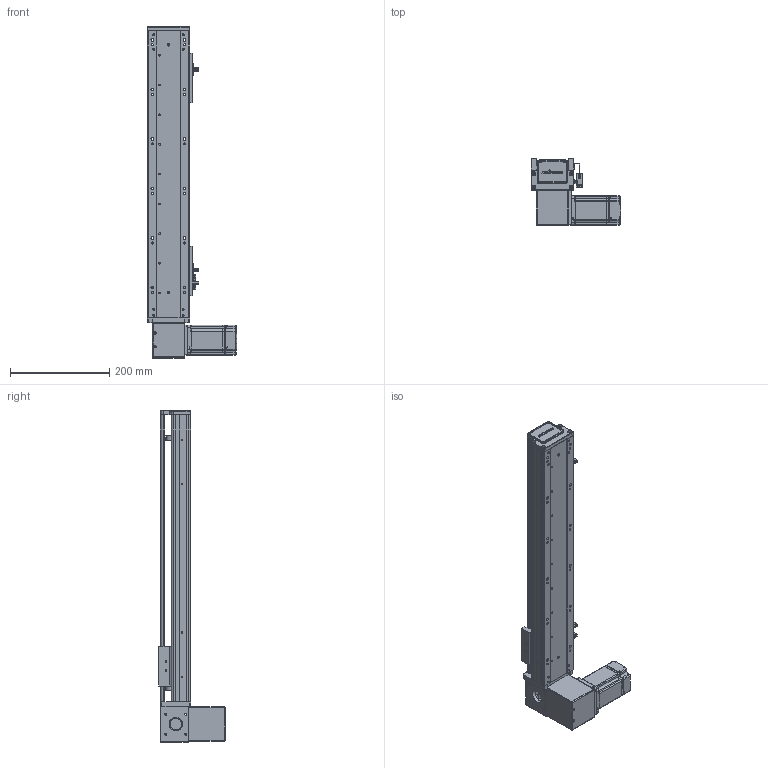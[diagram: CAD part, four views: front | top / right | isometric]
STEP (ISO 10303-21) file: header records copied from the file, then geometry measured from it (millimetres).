
FILE_DESCRIPTION (( 'STEP AP203' ), '1' );
FILE_NAME ('RY80-T-300-DR.SLDASM_400.step', '2021-03-01T01:49:16', ( '盈信电脑' ), ( '东莞市道滘镇水果街19号' ), 'SwSTEP 2.0', 'SolidWorks 2012', '' );
FILE_SCHEMA (( 'CONFIG_CONTROL_DESIGN' ));
Products named in the file (18): RY80-T-300-DR.SLDASM_400; 1; RY80-T-M4蹟翐3; RY80-T萇儂假蚾啣; RY80-T翋肮祭謫裔啣; RY80-T肮祭謫狟殏俋欶; RY80-T-上下折同步轮盖板; RY80-T-翋肮祭謫釱; 滅袉蝶18-10; RY80-T肮祭湍揤輸2; RY80-T肮祭湍揤輸1; RY80-T綴裔啣; 覜茼ん672; RY80俋离覜茼え; 672嫖萇羲壽假蚾釱; RY80-T-300-DR倰第奻裔啣_400; RY80-T-300-DR倰第菁釱_400; RY80-T肮祭謫臏賑輸
Assembly tree (21 placements, depth 2):
  RY80-T-300-DR.SLDASM_400
    RY80-T-300-DR倰第菁釱_400
    RY80-T肮祭謫臏賑輸
    RY80-T-300-DR倰第奻裔啣_400
    RY80-T綴裔啣
    672嫖萇羲壽假蚾釱  x2
    覜茼ん672  x3
    RY80俋离覜茼え
    RY80-T-翋肮祭謫釱
    RY80-T肮祭湍揤輸1
    RY80-T肮祭湍揤輸2
    滅袉蝶18-10  x2
    RY80-T翋肮祭謫裔啣
    RY80-T-上下折同步轮盖板
    RY80-T肮祭謫狟殏俋欶
    RY80-T萇儂假蚾啣
    1
    RY80-T-M4蹟翐3
Bounding box: 180 x 134.5 x 670 mm (x, y, z)
Volume: 1386678.5 mm3; surface area: 555012.9 mm2
Topology: 21 solids, 21 shells, 2368 faces, 6537 edges, 4244 vertices
Faces by surface type: plane 1302, cylinder 871, cone 139, bspline 56
Entity records: 74914 total; most frequent: CARTESIAN_POINT 17925, ORIENTED_EDGE 11718, DIRECTION 11022, EDGE_CURVE 5859, VERTEX_POINT 3848, LINE 3676, VECTOR 3676, AXIS2_PLACEMENT_3D 3673
